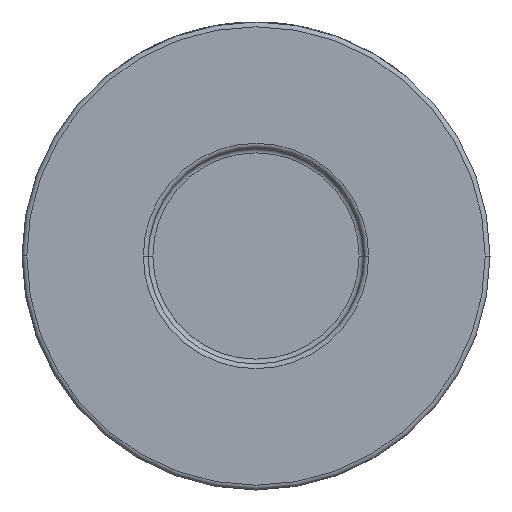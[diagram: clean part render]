
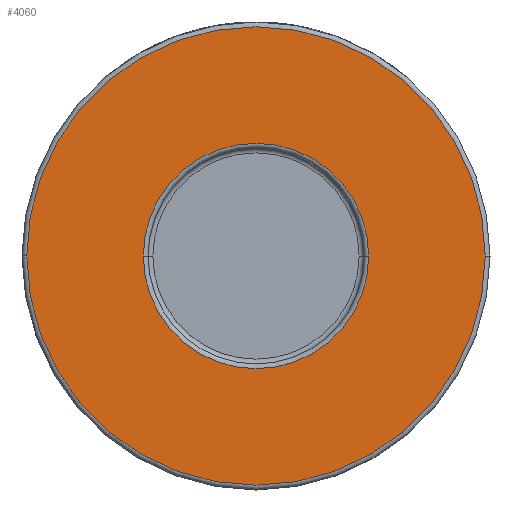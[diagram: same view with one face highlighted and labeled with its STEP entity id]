
A CAD part, front view. The second image highlights one B-rep face of the part: STEP entity #4060.
In plain terms, the highlighted planar face has unit normal (0, -1, 0).
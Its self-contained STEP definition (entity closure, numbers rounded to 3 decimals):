
#91 = ORIENTED_EDGE ( 'NONE', *, *, #4358, .T. ) ;
#99 = FACE_OUTER_BOUND ( 'NONE', #1802, .T. ) ;
#273 = AXIS2_PLACEMENT_3D ( 'NONE', #2785, #4196, #578 ) ;
#307 = FACE_BOUND ( 'NONE', #2117, .T. ) ;
#367 = AXIS2_PLACEMENT_3D ( 'NONE', #2790, #4253, #961 ) ;
#480 = DIRECTION ( 'NONE',  ( 1., 0., 0. ) ) ;
#496 = EDGE_CURVE ( 'NONE', #2188, #1371, #2482, .T. ) ;
#556 = CARTESIAN_POINT ( 'NONE',  ( 23.6, -30., 0. ) ) ;
#578 = DIRECTION ( 'NONE',  ( 1., 0., 0. ) ) ;
#851 = ORIENTED_EDGE ( 'NONE', *, *, #496, .T. ) ;
#879 = CIRCLE ( 'NONE', #1950, 48. ) ;
#961 = DIRECTION ( 'NONE',  ( 1., 0., 0. ) ) ;
#985 = VERTEX_POINT ( 'NONE', #1218 ) ;
#1126 = EDGE_CURVE ( 'NONE', #985, #2446, #879, .T. ) ;
#1175 = PLANE ( 'NONE',  #3220 ) ;
#1218 = CARTESIAN_POINT ( 'NONE',  ( 48., -30., 0. ) ) ;
#1371 = VERTEX_POINT ( 'NONE', #556 ) ;
#1802 = EDGE_LOOP ( 'NONE', ( #3494, #2399 ) ) ;
#1813 = EDGE_CURVE ( 'NONE', #2446, #985, #2492, .T. ) ;
#1950 = AXIS2_PLACEMENT_3D ( 'NONE', #2463, #3256, #3928 ) ;
#1958 = CARTESIAN_POINT ( 'NONE',  ( 0., -30., 0. ) ) ;
#2117 = EDGE_LOOP ( 'NONE', ( #91, #851 ) ) ;
#2156 = AXIS2_PLACEMENT_3D ( 'NONE', #1958, #2364, #480 ) ;
#2188 = VERTEX_POINT ( 'NONE', #3757 ) ;
#2252 = DIRECTION ( 'NONE',  ( 1., 0., 0. ) ) ;
#2364 = DIRECTION ( 'NONE',  ( 0., 1., 0. ) ) ;
#2399 = ORIENTED_EDGE ( 'NONE', *, *, #1813, .T. ) ;
#2446 = VERTEX_POINT ( 'NONE', #2910 ) ;
#2463 = CARTESIAN_POINT ( 'NONE',  ( 0., -30., 0. ) ) ;
#2482 = CIRCLE ( 'NONE', #273, 23.6 ) ;
#2492 = CIRCLE ( 'NONE', #367, 48. ) ;
#2611 = CIRCLE ( 'NONE', #2156, 23.6 ) ;
#2785 = CARTESIAN_POINT ( 'NONE',  ( 0., -30., 0. ) ) ;
#2790 = CARTESIAN_POINT ( 'NONE',  ( 0., -30., 0. ) ) ;
#2910 = CARTESIAN_POINT ( 'NONE',  ( -48., -30., 0. ) ) ;
#3220 = AXIS2_PLACEMENT_3D ( 'NONE', #4691, #4106, #2252 ) ;
#3256 = DIRECTION ( 'NONE',  ( 0., -1., 0. ) ) ;
#3494 = ORIENTED_EDGE ( 'NONE', *, *, #1126, .T. ) ;
#3757 = CARTESIAN_POINT ( 'NONE',  ( -23.6, -30., 0. ) ) ;
#3928 = DIRECTION ( 'NONE',  ( 1., 0., 0. ) ) ;
#4060 = ADVANCED_FACE ( 'NONE', ( #307, #99 ), #1175, .T. ) ;
#4106 = DIRECTION ( 'NONE',  ( 0., -1., 0. ) ) ;
#4196 = DIRECTION ( 'NONE',  ( 0., 1., 0. ) ) ;
#4253 = DIRECTION ( 'NONE',  ( 0., -1., 0. ) ) ;
#4358 = EDGE_CURVE ( 'NONE', #1371, #2188, #2611, .T. ) ;
#4691 = CARTESIAN_POINT ( 'NONE',  ( 49., -30., 0. ) ) ;
